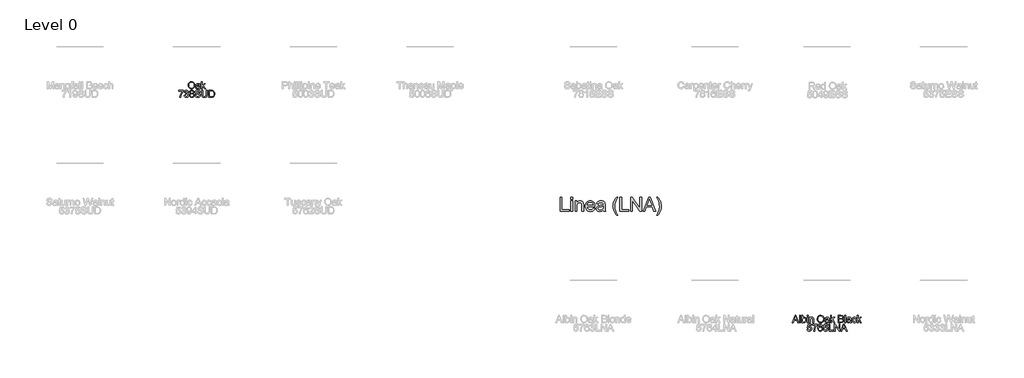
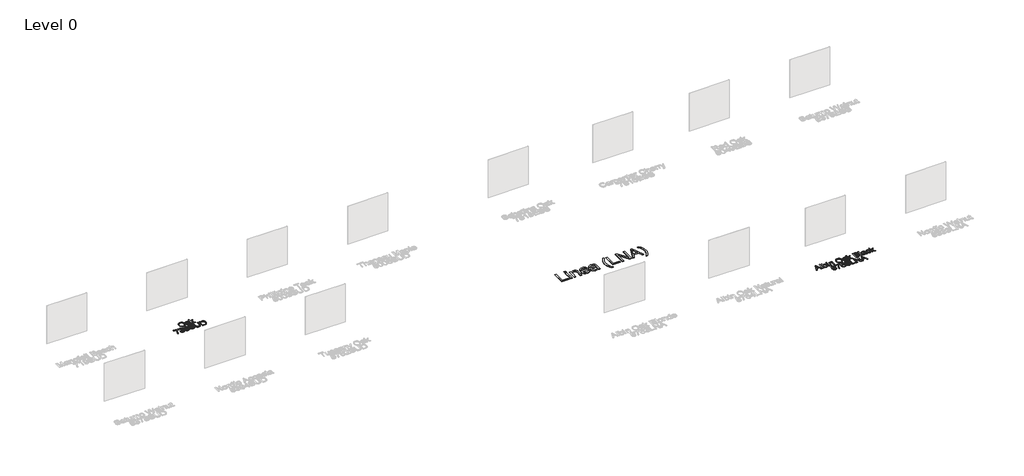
# One storey, part 27 of 43: 3 proxies.
"""IFC4 building model written with IfcOpenShell, lengths in millimetres."""

from ifc_helpers import new_model, si_unit, origin, origin_with_axes, place, context, project, spatial, polyline, outline, extrude, element, save

model = new_model("IFC4")

# Units and contexts
model_context = context("Model", 3, world=origin())
ifc_project = project(units=[si_unit("LENGTHUNIT", "METRE", prefix="MILLI")], contexts=[model_context])

# Site, building, storey
site = spatial("IfcSite", under=ifc_project)
building = spatial("IfcBuilding", under=site)
storey = spatial("IfcBuildingStorey", under=building, Name="Level 0", Elevation=0.0)

# Proxies
placement = place(None, origin())
element("IfcBuildingElementProxy", 1, Name="300mm Arial", ObjectType="300mm Arial", at=placement, inside=storey, context=model_context, shape_type="SweptSolid", body=[
    extrude(outline(polyline([(184.4030045, -11857.1491543), (186.9137991, -11821.8002931), (194.4461829, -11790.5073309), (207.000156, -11763.2702677), (224.5757184, -11740.0891034), (246.1198077, -11721.5800406), (270.5793618, -11708.3592814), (297.9543808, -11700.4268258), (328.2448646, -11697.782674), (367.773785, -11702.7490809), (403.2192152, -11717.6483017), (432.6497748, -11741.4318727), (454.1340833, -11773.0513302), (467.2674706, -11810.9799639), (471.6452663, -11853.6910636), (467.0375443, -11896.9723803), (453.2143784, -11935.4344429), (430.9391235, -11967.1090827), (400.975135, -11990.028131), (365.8332074, -12003.9340704), (328.0241354, -12008.5693835), (287.8882097, -12003.4466267), (252.2404444, -11988.0783564), (222.8834612, -11963.853327), (201.6198819, -11932.1602931), (188.7072238, -11895.6939903), (184.4030045, -11857.1491543)]), holes=[polyline([(222.0741208, -11857.5170363), (223.9572167, -11882.4916252), (229.6065046, -11904.661114), (239.0219844, -11924.0255025), (252.2036562, -11940.5847908), (268.2272163, -11953.8469367), (286.1683614, -11963.3198981), (306.0270913, -11969.0036749), (327.8034062, -11970.8982672), (349.9522016, -11968.9852808), (370.0454563, -11963.2463217), (388.0831704, -11953.6813898), (404.0653438, -11940.2904852), (417.1504465, -11923.381709), (426.4969485, -11903.2631624), (432.1048496, -11879.9348454), (433.97415, -11853.396758), (430.7735766, -11820.0482551), (421.1718566, -11791.2247008), (405.4173101, -11767.6526619), (383.7582577, -11750.0587055), (357.629439, -11739.1050191), (328.4655938, -11735.4537903), (307.4457363, -11737.2127261), (287.943392, -11742.4895335), (269.958561, -11751.2842124), (253.4912432, -11763.5967629), (239.7462521, -11780.0203948), (229.9284014, -11801.1483176), (224.0376909, -11826.9805314), (222.0741208, -11857.5170363)])]), origin_with_axes(), (0.0, 0.0, 1.0), 10.0),
    extrude(outline(polyline([(660.0008478, -11975.6071568), (642.0022212, -11991.0398064), (623.4701657, -12001.1381672), (603.981617, -12006.7115794), (583.1135108, -12008.5693835), (551.6320091, -12004.0996173), (528.4094582, -11990.6903186), (514.0896515, -11970.3280501), (509.3163826, -11944.9993748), (511.1190044, -11929.3827841), (516.5268697, -11915.2009331), (524.868594, -11903.0608273), (535.4727925, -11893.5694718), (561.8499315, -11881.2086368), (594.4442763, -11875.5432541), (632.9615212, -11869.5835657), (659.7801186, -11862.5938078), (660.0008478, -11854.2060983), (657.4072798, -11837.3938912), (649.6265756, -11826.3942195), (632.2257572, -11818.2272392), (607.9823337, -11815.5049125), (585.541532, -11817.3167313), (569.869759, -11822.7521878), (559.1827871, -11832.8045633), (551.6963885, -11848.4671392), (514.0252722, -11843.7582497), (520.5643746, -11823.156858), (530.3224445, -11806.9700502), (544.2099899, -11794.590821), (563.1375185, -11785.4121652), (586.2864931, -11779.7283884), (612.8383761, -11777.8337961), (638.3050072, -11779.5076592), (658.4925317, -11784.5292485), (673.7136492, -11792.0800264), (684.2810595, -11801.3414556), (691.2892115, -11812.7917827), (695.8325542, -11826.9092543), (697.6719641, -11859.8714811), (697.6719641, -11906.7396473), (699.5849505, -11972.1858542), (707.0897432, -12003.860494), (669.4186269, -12003.860494), (660.0008478, -11975.6071568)]), holes=[polyline([(660.0008478, -11900.2649241), (599.2267422, -11911.8164188), (566.8163385, -11917.9232599), (552.1378469, -11927.8560738), (546.9874989, -11942.3506244), (549.7925991, -11953.5526311), (558.2078998, -11962.7312869), (572.0494598, -11968.8565221), (591.1333383, -11970.8982672), (611.3668481, -11968.64499), (629.245913, -11961.8851583), (643.7404637, -11951.9247533), (653.8204303, -11940.069756), (658.2901966, -11927.8560738), (659.7801186, -11910.933502), (660.0008478, -11900.2649241)])]), origin_with_axes(), (0.0, 0.0, 1.0), 10.0),
    extrude(outline(polyline([(749.4697491, -12003.860494), (749.4697491, -11702.4915635), (787.1408654, -11702.4915635), (787.1408654, -11864.4332178), (871.6065715, -11782.5426857), (923.698662, -11782.5426857), (838.2028863, -11865.4632874), (928.4075515, -12003.860494), (884.4088649, -12003.860494), (811.2003479, -11891.6564855), (787.1408654, -11914.9802039), (787.1408654, -12003.860494), (749.4697491, -12003.860494)])), origin_with_axes(), (0.0, 0.0, 1.0), 10.0),
    extrude(outline(polyline([(-218.207051, -12110.7960229), (-218.207051, -12073.1249066), (-20.4336904, -12073.1249066), (-20.4336904, -12103.5855358), (-48.6226483, -12139.2608923), (-76.5356947, -12184.6299393), (-101.1561972, -12235.5540045), (-119.4675235, -12287.8944154), (-128.4438442, -12327.0554538), (-133.4470394, -12369.7849475), (-171.1181557, -12369.7849475), (-167.0438626, -12330.9550029), (-156.1453585, -12284.8042066), (-138.7169489, -12235.8850983), (-115.0529396, -12188.7502177), (-87.4250018, -12146.1402856), (-58.1048067, -12110.7960229), (-218.207051, -12110.7960229)])), origin_with_axes(), (0.0, 0.0, 1.0), 10.0),
    extrude(outline(polyline([(12.5285363, -12289.7338254), (50.1996526, -12285.0249358), (58.6333474, -12308.6981422), (70.9849854, -12324.6826149), (87.8615719, -12333.7876943), (109.8701123, -12336.8227207), (135.6954283, -12332.6472601), (155.6346325, -12320.1208782), (168.3817436, -12301.4324728), (172.6307806, -12278.7709419), (168.4185318, -12257.2590422), (155.7817853, -12239.8122386), (136.6519215, -12228.2515469), (112.960321, -12224.397983), (86.5463938, -12228.5182614), (90.7402485, -12190.8471451), (96.7735132, -12191.2886035), (119.3430736, -12188.5846708), (139.5214011, -12180.4728728), (153.7584343, -12166.7508744), (158.504112, -12147.2163404), (155.0644154, -12130.9467592), (144.7453254, -12117.7489926), (128.999976, -12109.0025982), (109.2815011, -12106.0871334), (89.5262379, -12109.0301893), (73.3762183, -12117.8593572), (61.5856004, -12132.574637), (54.9085422, -12153.1760288), (17.2374259, -12148.4671392), (28.329068, -12114.6403898), (48.0659371, -12089.3852908), (75.0684755, -12073.6583355), (107.9571259, -12068.4160171), (131.6395293, -12071.0003881), (153.3905523, -12078.7535011), (171.7294697, -12090.9855775), (185.1755567, -12107.0068384), (193.4253104, -12125.4653175), (196.1752283, -12145.0090485), (193.5632662, -12163.2192072), (185.7273797, -12179.7371088), (172.7779334, -12193.8085951), (154.8252921, -12204.6795081), (178.406528, -12214.2076518), (195.8809227, -12230.4312477), (206.6966534, -12252.4673793), (210.3018969, -12279.4331295), (208.4992752, -12298.5445992), (203.0914098, -12316.1477526), (194.078301, -12332.2425899), (181.4599485, -12346.829111), (166.0870796, -12358.9324287), (148.8104214, -12367.5776555), (129.6299739, -12372.7647917), (108.5457371, -12374.4938371), (89.4894497, -12373.0177105), (72.1254195, -12368.589331), (56.4536466, -12361.2086985), (42.4741307, -12350.875813), (30.7524907, -12338.1976797), (21.8543449, -12323.781304), (15.7796935, -12307.6266859), (12.5285363, -12289.7338254)])), origin_with_axes(), (0.0, 0.0, 1.0), 10.0),
    extrude(outline(polyline([(298.1521174, -12203.7965913), (277.982987, -12193.8637774), (263.8287272, -12180.3992964), (255.4686089, -12163.6790597), (252.6819028, -12143.9789789), (254.199416, -12128.6153071), (258.7519557, -12114.5300252), (266.3395219, -12101.7231332), (276.9621145, -12090.1946312), (290.1092973, -12080.6664875), (305.270634, -12073.8606706), (341.6357692, -12068.4160171), (378.2216336, -12073.9894293), (393.5485173, -12080.9561946), (406.8980352, -12090.709666), (417.7137658, -12102.4634957), (425.4392877, -12115.4313361), (430.0746009, -12129.613187), (431.6197052, -12145.0090485), (428.8697873, -12164.0745329), (420.6200336, -12180.509661), (406.7784735, -12193.8913686), (387.2531366, -12203.7965913), (410.4388994, -12215.7435591), (427.3154859, -12233.3375155), (437.6069847, -12255.732332), (441.0374843, -12282.0818799), (439.3360301, -12300.8714528), (434.2316674, -12318.0975272), (425.7243963, -12333.7601031), (413.8142167, -12347.8591806), (399.126528, -12359.5118428), (382.2867297, -12367.8351729), (363.2948217, -12372.829171), (342.150804, -12374.4938371), (321.0067863, -12372.8222732), (302.0148783, -12367.8075818), (285.17508, -12359.4497627), (270.4873913, -12347.748816), (258.5772118, -12333.5508703), (250.0699406, -12317.702054), (244.9655779, -12300.2023674), (243.2641237, -12281.0518103), (246.8325791, -12253.6813898), (257.5379451, -12231.1670117), (274.8283989, -12214.2812282), (298.1521174, -12203.7965913)]), holes=[polyline([(290.3530191, -12145.0826249), (293.6915482, -12161.52695), (303.7071355, -12174.6603373), (320.1054754, -12183.268776), (342.5922624, -12186.1382555), (364.5548175, -12183.2871701), (380.7048371, -12174.7339137), (390.637651, -12162.0419848), (393.9485889, -12146.774882), (390.5272864, -12130.9283651), (380.2633787, -12117.822569), (363.8926299, -12109.0209923), (342.150804, -12106.0871334), (320.2710223, -12108.9566129), (303.9278647, -12117.5650516), (293.7467305, -12130.1834041), (290.3530191, -12145.0826249)]), polyline([(280.93524, -12279.7274351), (287.2260221, -12308.0911369), (295.9356284, -12320.2588339), (309.4828828, -12329.317928), (325.7064788, -12334.9465226), (342.4451096, -12336.8227207), (368.0864847, -12332.8771864), (387.326713, -12321.0405832), (399.3564543, -12303.1155329), (403.366368, -12280.9046575), (399.2276956, -12258.316703), (386.8116782, -12239.9961796), (367.1299915, -12227.8560738), (341.1943108, -12223.8093718), (315.9116207, -12227.8008915), (296.8645304, -12239.7754504), (284.9175626, -12257.7464859), (280.93524, -12279.7274351)])]), origin_with_axes(), (0.0, 0.0, 1.0), 10.0),
    extrude(outline(polyline([(473.9997111, -12266.1893777), (511.6708274, -12266.1893777), (515.9934408, -12287.0942721), (523.8109332, -12303.8972822), (536.0062214, -12317.2330045), (553.462222, -12327.7360355), (574.7993778, -12334.5510494), (598.638131, -12336.8227207), (619.6257989, -12335.1028724), (638.0015045, -12329.9433274), (652.8915283, -12321.7763471), (663.4221504, -12311.0341929), (669.6853414, -12298.700949), (671.7730717, -12285.7606998), (670.2095732, -12273.1515444), (665.5190778, -12262.2530403), (655.9909341, -12252.9548229), (639.9144909, -12245.1465276), (585.0632854, -12230.7623415), (549.0568351, -12221.2433949), (526.0182252, -12212.1843008), (507.2654405, -12199.510766), (493.9757034, -12184.1516928), (486.0570435, -12166.4381747), (483.4174902, -12146.7013056), (486.6824429, -12124.637583), (496.477301, -12104.0637824), (512.5445471, -12086.6261758), (534.6266639, -12073.9710352), (561.1325616, -12066.2731044), (590.4711508, -12063.7071275), (622.2561551, -12066.3926661), (650.068034, -12074.4492818), (672.9135059, -12087.7114277), (689.7992895, -12106.013557), (700.4862614, -12128.2152354), (704.7352985, -12153.1760288), (667.0641821, -12153.1760288), (660.1480006, -12130.6984389), (645.7270264, -12114.4748429), (623.1942542, -12104.6523936), (591.9426787, -12101.3782438), (559.9553393, -12104.6156054), (538.0111782, -12114.3276901), (525.3192494, -12128.6199056), (521.0886065, -12145.5976597), (524.0868447, -12160.0738162), (533.0815595, -12171.7172813), (554.3451388, -12182.1283418), (594.5914291, -12192.7601314), (636.1253064, -12202.8584922), (661.2516466, -12211.669266), (682.7267581, -12225.3360821), (697.7087523, -12242.2034716), (706.5103291, -12262.0874934), (709.444188, -12284.8042066), (706.0688707, -12308.0267576), (695.9429188, -12329.869751), (679.4801995, -12348.668521), (657.0945801, -12362.7584014), (630.1748151, -12371.5599781), (600.109659, -12374.4938371), (563.2018979, -12371.3300519), (532.8240421, -12361.8386964), (508.6266039, -12345.9829824), (490.2600953, -12323.7261217), (478.4694773, -12296.6132187), (473.9997111, -12266.1893777)])), origin_with_axes(), (0.0, 0.0, 1.0), 10.0),
    extrude(outline(polyline([(963.7242231, -12068.4160171), (1001.3953394, -12068.4160171), (1001.3953394, -12242.277048), (998.8385595, -12282.9923878), (991.1682199, -12314.3451308), (976.8392162, -12338.533372), (954.306444, -12357.7552063), (923.514721, -12370.3091794), (884.4088649, -12374.4938371), (846.1583345, -12370.8518053), (815.5781436, -12359.92571), (792.6590953, -12342.0926303), (777.3919925, -12317.7296452), (768.811145, -12285.052527), (765.9508625, -12242.277048), (765.9508625, -12068.4160171), (803.6219788, -12068.4160171), (803.6219788, -12240.9526728), (805.4797828, -12274.8070134), (811.0531951, -12298.3790523), (821.1515558, -12314.7038158), (836.5842055, -12326.8163305), (856.7073507, -12334.3211232), (880.8771977, -12336.8227207), (919.1921075, -12331.8747079), (933.5349068, -12325.6896919), (944.6679357, -12317.0306694), (953.0050614, -12304.8537754), (958.9601512, -12288.1151446), (963.7242231, -12240.9526728), (963.7242231, -12068.4160171)])), origin_with_axes(), (0.0, 0.0, 1.0), 10.0),
    extrude(outline(polyline([(1067.3197929, -12369.7849475), (1067.3197929, -12068.4160171), (1171.2832447, -12068.4160171), (1225.0675924, -12072.7570246), (1249.0902867, -12081.12634), (1269.3605847, -12094.3149095), (1290.2010997, -12117.270746), (1305.0451382, -12145.8183889), (1313.9294884, -12179.406015), (1316.8909384, -12217.4818015), (1314.8859816, -12249.8278259), (1308.8711109, -12278.2926953), (1299.7108493, -12302.5269217), (1288.2697192, -12322.1810173), (1275.0995438, -12337.6964405), (1260.752146, -12349.5146496), (1244.2802296, -12358.2794381), (1224.7364986, -12364.6345996), (1176.2864399, -12369.7849475), (1067.3197929, -12369.7849475)]), holes=[polyline([(1104.9909092, -12332.1138312), (1171.6511267, -12332.1138312), (1199.2238823, -12330.7526678), (1220.1379737, -12326.6691777), (1235.9201113, -12320.1024841), (1248.0970053, -12311.2917103), (1261.1844073, -12294.9853408), (1271.0160536, -12273.8781114), (1277.16888, -12247.8780514), (1279.2198221, -12216.8931903), (1275.2007113, -12175.8375597), (1263.1433789, -12145.5240833), (1245.3286933, -12124.7019623), (1224.0375228, -12112.1203981), (1202.3692733, -12107.5954496), (1170.6210571, -12106.0871334), (1104.9909092, -12106.0871334), (1104.9909092, -12332.1138312)])]), origin_with_axes(), (0.0, 0.0, 1.0), 10.0),
])
element("IfcBuildingElementProxy", 2, Name="300mm Arial", ObjectType="300mm Arial", at=placement, inside=storey, context=model_context, shape_type="SweptSolid", body=[
    extrude(outline(polyline([(26068.6169131, -22016.4454346), (26188.9143255, -21715.0765041), (26220.9936355, -21715.0765041), (26341.2910479, -22016.4454346), (26301.4862161, -22016.4454346), (26266.9788849, -21922.2676438), (26142.8554997, -21922.2676438), (26108.421745, -22016.4454346), (26068.6169131, -22016.4454346)]), holes=[polyline([(26156.6878628, -21884.5965275), (26253.2200983, -21884.5965275), (26226.070407, -21810.5050937), (26204.9539805, -21752.7476204), (26186.1919988, -21804.0303705), (26156.6878628, -21884.5965275)])]), origin_with_axes(), (0.0, 0.0, 1.0), 10.0),
    extrude(outline(polyline([(26376.8284487, -22016.4454346), (26376.8284487, -21715.0765041), (26414.499565, -21715.0765041), (26414.499565, -22016.4454346), (26376.8284487, -22016.4454346)])), origin_with_axes(), (0.0, 0.0, 1.0), 10.0),
    extrude(outline(polyline([(26508.6773557, -22016.4454346), (26471.0062394, -22016.4454346), (26471.0062394, -21715.0765041), (26508.6773557, -21715.0765041), (26508.6773557, -21826.8390542), (26521.0657819, -21810.9051653), (26535.0544948, -21799.5238161), (26550.6434943, -21792.6950066), (26567.8327806, -21790.4187367), (26587.2385558, -21792.4696788), (26605.5774733, -21798.6225052), (26621.8010693, -21808.4909397), (26634.8608801, -21821.6887063), (26645.0971966, -21838.0870462), (26652.8503096, -21857.5572008), (26657.7339431, -21879.2898297), (26659.361821, -21902.4755924), (26657.6764616, -21929.2298105), (26652.6203834, -21952.7650612), (26644.1935864, -21973.0813444), (26632.3960707, -21990.1786601), (26618.2349132, -22003.7305131), (26602.7171908, -22013.4104081), (26585.8429035, -22019.2183451), (26567.6120514, -22021.1543241), (26549.8571466, -22018.657325), (26534.1163957, -22011.1663279), (26520.3897988, -21998.6813327), (26508.6773557, -21981.2023394), (26508.6773557, -22016.4454346)]), holes=[polyline([(26508.6773557, -21904.241426), (26511.2525297, -21935.6585484), (26518.9780516, -21956.9221277), (26528.1061236, -21968.5426003), (26538.7149206, -21976.8429378), (26550.8044427, -21981.8231403), (26564.3746898, -21983.4832078), (26586.1165157, -21978.5903772), (26604.6945565, -21963.9118856), (26617.4416676, -21939.5397035), (26621.6907047, -21905.5658012), (26617.6164116, -21871.0952583), (26605.3935323, -21846.9989876), (26587.3949057, -21832.8171367), (26565.9933706, -21828.089853), (26544.2515447, -21832.9826836), (26525.6735039, -21847.6611752), (26512.9263928, -21871.591899), (26508.6773557, -21904.241426)])]), origin_with_axes(), (0.0, 0.0, 1.0), 10.0),
    extrude(outline(polyline([(26701.7418268, -21752.7476204), (26701.7418268, -21715.0765041), (26739.4129431, -21715.0765041), (26739.4129431, -21752.7476204), (26701.7418268, -21752.7476204)])), origin_with_axes(), (0.0, 0.0, 1.0), 10.0),
    extrude(outline(polyline([(26701.7418268, -22016.4454346), (26701.7418268, -21795.1276263), (26739.4129431, -21795.1276263), (26739.4129431, -22016.4454346), (26701.7418268, -22016.4454346)])), origin_with_axes(), (0.0, 0.0, 1.0), 10.0),
    extrude(outline(polyline([(26795.9196176, -22016.4454346), (26795.9196176, -21795.1276263), (26833.5907339, -21795.1276263), (26833.5907339, -21826.0297138), (26846.6781359, -21810.4499114), (26862.3958941, -21799.321481), (26880.7440086, -21792.6444228), (26901.7224794, -21790.4187367), (26920.2913231, -21792.2121614), (26937.2966683, -21797.5924356), (26951.4785192, -21805.8881746), (26961.57688, -21816.4279938), (26972.8708573, -21844.129508), (26974.85742, -21880.5498255), (26974.85742, -22016.4454346), (26937.1863037, -22016.4454346), (26937.1863037, -21885.6265971), (26932.8452962, -21852.2964883), (26926.8396226, -21842.3728715), (26917.504617, -21834.6749407), (26905.5392551, -21829.7361249), (26891.6425127, -21828.089853), (26869.5787901, -21831.7870671), (26850.7708231, -21842.8787092), (26843.254534, -21851.9332048), (26837.8857562, -21864.3078354), (26833.5907339, -21899.0175017), (26833.5907339, -22016.4454346), (26795.9196176, -22016.4454346)])), origin_with_axes(), (0.0, 0.0, 1.0), 10.0),
    extrude(outline(polyline([(27134.9596643, -21869.7340949), (27137.4704589, -21834.3852337), (27145.0028428, -21803.0922714), (27157.5568159, -21775.8552082), (27175.1323782, -21752.674044), (27196.6764675, -21734.1649811), (27221.1360217, -21720.9442219), (27248.5110407, -21713.0117664), (27278.8015244, -21710.3676146), (27318.3304448, -21715.3340215), (27353.7758751, -21730.2332423), (27383.2064347, -21754.0168133), (27404.6907432, -21785.6362708), (27417.8241304, -21823.5649045), (27422.2019262, -21866.2760041), (27417.5942042, -21909.5573209), (27403.7710382, -21948.0193834), (27381.4957834, -21979.6940232), (27351.5317949, -22002.6130715), (27316.3898673, -22016.519011), (27278.5807952, -22021.1543241), (27238.4448696, -22016.0315673), (27202.7971042, -22000.663297), (27173.440121, -21976.4382676), (27152.1765417, -21944.7452337), (27139.2638837, -21908.2789309), (27134.9596643, -21869.7340949)]), holes=[polyline([(27172.6307806, -21870.1019769), (27174.5138766, -21895.0765658), (27180.1631645, -21917.2460546), (27189.5786443, -21936.6104431), (27202.760316, -21953.1697314), (27218.7838762, -21966.4318773), (27236.7250212, -21975.9048387), (27256.5837512, -21981.5886155), (27278.360066, -21983.4832078), (27300.5088614, -21981.5702214), (27320.6021161, -21975.8312623), (27338.6398302, -21966.2663304), (27354.6220036, -21952.8754258), (27367.7071064, -21935.9666496), (27377.0536083, -21915.848103), (27382.6615095, -21892.519786), (27384.5308099, -21865.9816985), (27381.3302365, -21832.6331957), (27371.7285164, -21803.8096413), (27355.97397, -21780.2376025), (27334.3149175, -21762.6436461), (27308.1860988, -21751.6899597), (27279.0222536, -21748.0387309), (27258.0023961, -21749.7976667), (27238.5000519, -21755.074474), (27220.5152208, -21763.869153), (27204.047903, -21776.1817035), (27190.302912, -21792.6053353), (27180.4850612, -21813.7332582), (27174.5943508, -21839.565472), (27172.6307806, -21870.1019769)])]), origin_with_axes(), (0.0, 0.0, 1.0), 10.0),
    extrude(outline(polyline([(27610.5575077, -21988.1920973), (27592.5588811, -22003.624747), (27574.0268256, -22013.7231078), (27554.5382769, -22019.29652), (27533.6701707, -22021.1543241), (27502.188669, -22016.6845578), (27478.966118, -22003.2752591), (27464.6463114, -21982.9129907), (27459.8730425, -21957.5843153), (27461.6756642, -21941.9677246), (27467.0835296, -21927.7858737), (27475.4252538, -21915.6457679), (27486.0294523, -21906.1544124), (27512.4065914, -21893.7935774), (27545.0009361, -21888.1281946), (27583.518181, -21882.1685063), (27610.3367785, -21875.1787484), (27610.5575077, -21866.7910389), (27607.9639396, -21849.9788317), (27600.1832354, -21838.9791601), (27582.7824171, -21830.8121798), (27558.5389936, -21828.089853), (27536.0981919, -21829.9016718), (27520.4264189, -21835.3371283), (27509.7394469, -21845.3895038), (27502.2530483, -21861.0520798), (27464.581932, -21856.3431903), (27471.1210345, -21835.7417985), (27480.8791044, -21819.5549907), (27494.7666497, -21807.1757616), (27513.6941784, -21797.9971058), (27536.8431529, -21792.313329), (27563.3950359, -21790.4187367), (27588.861667, -21792.0925998), (27609.0491915, -21797.114189), (27624.2703091, -21804.664967), (27634.8377194, -21813.9263962), (27641.8458714, -21825.3767233), (27646.389214, -21839.4941949), (27648.228624, -21872.4564216), (27648.228624, -21919.3245878), (27650.1416104, -21984.7707948), (27657.6464031, -22016.4454346), (27619.9752868, -22016.4454346), (27610.5575077, -21988.1920973)]), holes=[polyline([(27610.5575077, -21912.8498647), (27549.7834021, -21924.4013594), (27517.3729983, -21930.5082005), (27502.6945067, -21940.4410143), (27497.5441588, -21954.935565), (27500.349259, -21966.1375717), (27508.7645596, -21975.3162275), (27522.6061197, -21981.4414627), (27541.6899982, -21983.4832078), (27561.9235079, -21981.2299306), (27579.8025729, -21974.4700989), (27594.2971235, -21964.5096939), (27604.3770902, -21952.6546966), (27608.8468564, -21940.4410143), (27610.3367785, -21923.5184426), (27610.5575077, -21912.8498647)])]), origin_with_axes(), (0.0, 0.0, 1.0), 10.0),
    extrude(outline(polyline([(27700.0264089, -22016.4454346), (27700.0264089, -21715.0765041), (27737.6975252, -21715.0765041), (27737.6975252, -21877.0181584), (27822.1632313, -21795.1276263), (27874.2553218, -21795.1276263), (27788.7595462, -21878.048228), (27878.9642114, -22016.4454346), (27834.9655247, -22016.4454346), (27761.7570077, -21904.241426), (27737.6975252, -21927.5651445), (27737.6975252, -22016.4454346), (27700.0264089, -22016.4454346)])), origin_with_axes(), (0.0, 0.0, 1.0), 10.0),
    extrude(outline(polyline([(28034.3575661, -22016.4454346), (28034.3575661, -21715.0765041), (28149.3574778, -21715.0765041), (28180.9861324, -21717.2929931), (28205.6802113, -21723.9424602), (28224.6077399, -21735.1904522), (28238.9367437, -21751.202516), (28247.9590496, -21770.0380742), (28250.9664849, -21789.7565491), (28248.4372962, -21807.9023285), (28240.84973, -21824.9628561), (28228.1486041, -21839.889668), (28210.2787362, -21851.6343007), (28231.625089, -21862.7811252), (28247.3980295, -21879.7404851), (28257.1377054, -21901.3903406), (28260.384264, -21926.6086513), (28258.1677749, -21947.6239103), (28251.5183079, -21967.112459), (28241.5946911, -21983.6855429), (28229.5557528, -21995.9544074), (28214.8128818, -22004.8387576), (28196.777467, -22011.2582984), (28148.474561, -22016.4454346), (28034.3575661, -22016.4454346)]), holes=[polyline([(28072.0286824, -21837.5076321), (28140.8226155, -21837.5076321), (28180.9953294, -21834.2702705), (28195.0576187, -21828.6876613), (28205.1651765, -21820.3275429), (28211.2628206, -21809.3186742), (28213.2953686, -21795.7898138), (28211.4007763, -21782.6564266), (28205.7169995, -21771.2152966), (28196.5015555, -21762.2849611), (28184.0119618, -21756.6839578), (28135.5986912, -21752.7476204), (28072.0286824, -21752.7476204), (28072.0286824, -21837.5076321)]), polyline([(28072.0286824, -21978.7743182), (28149.2839014, -21978.7743182), (28177.2429331, -21977.3027903), (28200.8977454, -21969.0990218), (28216.5695183, -21952.360391), (28221.1772403, -21940.5329848), (28222.7131477, -21926.9765333), (28220.9105259, -21911.2311839), (28215.5026606, -21897.6931265), (28206.0572903, -21887.1073221), (28192.1421539, -21880.2187317), (28172.432876, -21876.4387442), (28145.6050815, -21875.1787484), (28072.0286824, -21875.1787484), (28072.0286824, -21978.7743182)])]), origin_with_axes(), (0.0, 0.0, 1.0), 10.0),
    extrude(outline(polyline([(28307.4731594, -22016.4454346), (28307.4731594, -21715.0765041), (28345.1442757, -21715.0765041), (28345.1442757, -22016.4454346), (28307.4731594, -22016.4454346)])), origin_with_axes(), (0.0, 0.0, 1.0), 10.0),
    extrude(outline(polyline([(28542.9176363, -21988.1920973), (28524.9190097, -22003.624747), (28506.3869541, -22013.7231078), (28486.8984055, -22019.29652), (28466.0302993, -22021.1543241), (28434.5487975, -22016.6845578), (28411.3262466, -22003.2752591), (28397.0064399, -21982.9129907), (28392.233171, -21957.5843153), (28394.0357928, -21941.9677246), (28399.4436581, -21927.7858737), (28407.7853824, -21915.6457679), (28418.3895809, -21906.1544124), (28444.76672, -21893.7935774), (28477.3610647, -21888.1281946), (28515.8783096, -21882.1685063), (28542.6969071, -21875.1787484), (28542.9176363, -21866.7910389), (28540.3240682, -21849.9788317), (28532.543364, -21838.9791601), (28515.1425456, -21830.8121798), (28490.8991221, -21828.089853), (28468.4583204, -21829.9016718), (28452.7865474, -21835.3371283), (28442.0995755, -21845.3895038), (28434.6131769, -21861.0520798), (28396.9420606, -21856.3431903), (28403.481163, -21835.7417985), (28413.239233, -21819.5549907), (28427.1267783, -21807.1757616), (28446.0543069, -21797.9971058), (28469.2032815, -21792.313329), (28495.7551645, -21790.4187367), (28521.2217956, -21792.0925998), (28541.4093201, -21797.114189), (28556.6304376, -21804.664967), (28567.1978479, -21813.9263962), (28574.206, -21825.3767233), (28578.7493426, -21839.4941949), (28580.5887526, -21872.4564216), (28580.5887526, -21919.3245878), (28582.5017389, -21984.7707948), (28590.0065316, -22016.4454346), (28552.3354153, -22016.4454346), (28542.9176363, -21988.1920973)]), holes=[polyline([(28542.9176363, -21912.8498647), (28482.1435307, -21924.4013594), (28449.7331269, -21930.5082005), (28435.0546353, -21940.4410143), (28429.9042873, -21954.935565), (28432.7093876, -21966.1375717), (28441.1246882, -21975.3162275), (28454.9662483, -21981.4414627), (28474.0501268, -21983.4832078), (28494.2836365, -21981.2299306), (28512.1627015, -21974.4700989), (28526.6572521, -21964.5096939), (28536.7372187, -21952.6546966), (28541.206985, -21940.4410143), (28542.6969071, -21923.5184426), (28542.9176363, -21912.8498647)])]), origin_with_axes(), (0.0, 0.0, 1.0), 10.0),
    extrude(outline(polyline([(28773.6532236, -21936.3943124), (28811.3243399, -21941.1032019), (28800.821309, -21974.6080546), (28781.0844399, -21999.927533), (28753.9715369, -22015.8476263), (28721.3404039, -22021.1543241), (28700.2124811, -22019.3034178), (28681.2688576, -22013.7506989), (28664.5095335, -22004.4961675), (28649.9345087, -21991.5398235), (28638.1369929, -21975.1253887), (28629.710196, -21955.496585), (28624.6541178, -21932.6534124), (28622.9687584, -21906.5958708), (28625.847435, -21873.072624), (28634.4834649, -21844.0191434), (28649.0148037, -21820.5574692), (28669.5794072, -21803.8096413), (28694.1815156, -21793.7664629), (28720.8253691, -21790.4187367), (28752.6563588, -21795.0172617), (28778.1045958, -21808.8128365), (28796.3607398, -21831.0696972), (28806.6154504, -21861.0520798), (28768.9443341, -21865.7609693), (28762.110926, -21849.3258412), (28751.4699393, -21837.5444203), (28737.6099852, -21830.4534948), (28721.1196747, -21828.089853), (28696.7750837, -21832.7435603), (28677.4520819, -21846.704682), (28664.8429265, -21870.7273763), (28660.6398747, -21905.5658012), (28664.750956, -21940.8732757), (28677.0841999, -21964.9787434), (28696.0577138, -21978.8570917), (28720.0896051, -21983.4832078), (28739.5965479, -21980.5953341), (28755.5902177, -21971.9317131), (28767.2244858, -21957.2716156), (28773.6532236, -21936.3943124)])), origin_with_axes(), (0.0, 0.0, 1.0), 10.0),
    extrude(outline(polyline([(28844.2865667, -22016.4454346), (28844.2865667, -21715.0765041), (28881.957683, -21715.0765041), (28881.957683, -21877.0181584), (28966.4233891, -21795.1276263), (29018.5154796, -21795.1276263), (28933.019704, -21878.048228), (29023.2243692, -22016.4454346), (28979.2256825, -22016.4454346), (28906.0171655, -21904.241426), (28881.957683, -21927.5651445), (28881.957683, -22016.4454346), (28844.2865667, -22016.4454346)])), origin_with_axes(), (0.0, 0.0, 1.0), 10.0),
    extrude(outline(polyline([(26701.7418268, -22302.3187659), (26739.4129431, -22297.6098764), (26746.3291246, -22320.2254221), (26758.3956541, -22336.4214269), (26775.5573491, -22346.1611027), (26797.7590275, -22349.4076613), (26824.761566, -22344.8919098), (26844.9950757, -22331.3446554), (26857.6318223, -22310.3293964), (26861.8440711, -22283.4096314), (26857.8985367, -22258.0625619), (26846.0619335, -22238.6751808), (26826.242291, -22226.369528), (26798.3476387, -22222.2676438), (26780.0731006, -22223.9047187), (26765.2750474, -22228.8159433), (26744.1218326, -22245.8120915), (26706.4507163, -22241.1032019), (26739.4129431, -22085.7098472), (26885.3885188, -22085.7098472), (26885.3885188, -22123.3809635), (26769.8735723, -22123.3809635), (26753.7603409, -22206.3751416), (26780.6709089, -22190.041181), (26808.8690638, -22184.5965275), (26827.214879, -22186.2841861), (26844.0661737, -22191.3471621), (26859.4229477, -22199.7854554), (26873.2852012, -22211.5990659), (26884.7608201, -22226.0660254), (26892.9576908, -22242.4643653), (26897.8758133, -22260.7940857), (26899.5151874, -22281.0551866), (26893.6106814, -22318.7263029), (26886.2300489, -22335.520116), (26875.8971633, -22350.9527657), (26860.2437844, -22366.7578959), (26841.9784434, -22378.0472746), (26821.1011401, -22384.8209019), (26797.6118747, -22387.0787776), (26760.6121431, -22381.2754392), (26744.9334723, -22374.0212661), (26731.1355982, -22363.8654237), (26719.6553807, -22351.3137499), (26710.9296796, -22336.8720823), (26701.7418268, -22302.3187659)])), origin_with_axes(), (0.0, 0.0, 1.0), 10.0),
    extrude(outline(polyline([(26932.4774142, -22123.3809635), (26932.4774142, -22085.7098472), (27130.2507748, -22085.7098472), (27130.2507748, -22116.1704764), (27102.0618169, -22151.8458329), (27074.1487705, -22197.2148799), (27049.528268, -22248.1389451), (27031.2169417, -22300.479356), (27022.240621, -22339.6403943), (27017.2374259, -22382.3698881), (26979.5663096, -22382.3698881), (26983.6406027, -22343.5399435), (26994.5391068, -22297.3891472), (27011.9675163, -22248.4700389), (27035.6315256, -22201.3351583), (27063.2594635, -22158.7252262), (27092.5796585, -22123.3809635), (26932.4774142, -22123.3809635)])), origin_with_axes(), (0.0, 0.0, 1.0), 10.0),
    extrude(outline(polyline([(27356.2774726, -22161.0520798), (27318.6063563, -22165.7609693), (27312.5363034, -22147.0909581), (27304.3325349, -22134.3438469), (27287.2444162, -22122.5900172), (27266.5878422, -22118.6720739), (27249.0766592, -22120.9529423), (27232.5955458, -22127.7955474), (27218.4412861, -22142.2073246), (27206.8805944, -22162.0453612), (27199.072299, -22190.1055604), (27196.1752283, -22229.1838253), (27211.2859813, -22211.5530807), (27229.3949725, -22199.1278663), (27249.4905265, -22191.7610293), (27270.5609677, -22189.305417), (27288.6607619, -22190.9838786), (27305.3626045, -22196.0192634), (27320.6664955, -22204.4115714), (27334.5724349, -22216.1608027), (27346.1285281, -22230.5679813), (27354.3828803, -22246.9341316), (27359.3354917, -22265.2592534), (27360.9863622, -22285.543347), (27357.8777593, -22312.5182943), (27348.5519507, -22337.5250729), (27333.7814886, -22358.7334699), (27314.3389252, -22374.3132724), (27291.1071772, -22383.8874013), (27264.9691614, -22387.0787776), (27242.5122649, -22384.9634562), (27222.2304706, -22378.6174917), (27204.1237787, -22368.0408844), (27188.192189, -22353.2336341), (27175.2036553, -22333.5703414), (27165.9261313, -22308.4256071), (27160.3596168, -22277.799431), (27158.504112, -22241.6918131), (27160.5642512, -22201.2109981), (27166.7446687, -22166.6622802), (27177.0453646, -22138.0456595), (27191.4663388, -22115.361136), (27207.0967251, -22100.328558), (27225.2195118, -22089.5910022), (27245.8346991, -22083.1484688), (27268.942287, -22081.0009576), (27301.9964842, -22086.3168525), (27328.4655938, -22102.264537), (27347.0068463, -22127.5932123), (27356.2774726, -22161.0520798)]), holes=[polyline([(27196.1752283, -22284.9547358), (27198.3549291, -22301.6473813), (27204.8940316, -22317.5858687), (27215.0475747, -22331.2894731), (27228.0705973, -22341.2774692), (27243.7883555, -22347.3751133), (27262.0261055, -22349.4076613), (27286.8857313, -22345.1954125), (27306.4294623, -22332.5586659), (27319.0938, -22312.6930382), (27323.3152459, -22286.7941457), (27319.1489823, -22261.9345199), (27306.6501915, -22242.9794001), (27286.7753667, -22230.97725), (27260.4810011, -22226.9765333), (27235.6581635, -22230.97725), (27214.9004219, -22242.9794001), (27200.8565267, -22261.4746674), (27196.1752283, -22284.9547358)])]), origin_with_axes(), (0.0, 0.0, 1.0), 10.0),
    extrude(outline(polyline([(27393.9485889, -22302.3187659), (27431.6197052, -22297.6098764), (27438.5358867, -22320.2254221), (27450.6024162, -22336.4214269), (27467.7641113, -22346.1611027), (27489.9657897, -22349.4076613), (27516.9683281, -22344.8919098), (27537.2018379, -22331.3446554), (27549.8385844, -22310.3293964), (27554.0508332, -22283.4096314), (27550.1052988, -22258.0625619), (27538.2686956, -22238.6751808), (27518.4490531, -22226.369528), (27490.5544009, -22222.2676438), (27472.2798628, -22223.9047187), (27457.4818095, -22228.8159433), (27436.3285948, -22245.8120915), (27398.6574785, -22241.1032019), (27431.6197052, -22085.7098472), (27577.5952809, -22085.7098472), (27577.5952809, -22123.3809635), (27462.0803344, -22123.3809635), (27445.967103, -22206.3751416), (27472.877671, -22190.041181), (27501.0758259, -22184.5965275), (27519.4216412, -22186.2841861), (27536.2729358, -22191.3471621), (27551.6297099, -22199.7854554), (27565.4919633, -22211.5990659), (27576.9675823, -22226.0660254), (27585.164453, -22242.4643653), (27590.0825754, -22260.7940857), (27591.7219495, -22281.0551866), (27585.8174435, -22318.7263029), (27578.436811, -22335.520116), (27568.1039254, -22350.9527657), (27552.4505466, -22366.7578959), (27534.1852055, -22378.0472746), (27513.3079023, -22384.8209019), (27489.8186369, -22387.0787776), (27452.8189052, -22381.2754392), (27437.1402344, -22374.0212661), (27423.3423603, -22363.8654237), (27411.8621428, -22351.3137499), (27403.1364418, -22336.8720823), (27393.9485889, -22302.3187659)])), origin_with_axes(), (0.0, 0.0, 1.0), 10.0),
    extrude(outline(polyline([(27638.8108449, -22382.3698881), (27638.8108449, -22081.0009576), (27676.4819612, -22081.0009576), (27676.4819612, -22344.6987718), (27827.1664265, -22344.6987718), (27827.1664265, -22382.3698881), (27638.8108449, -22382.3698881)])), origin_with_axes(), (0.0, 0.0, 1.0), 10.0),
    extrude(outline(polyline([(27869.5464323, -22382.3698881), (27869.5464323, -22081.0009576), (27909.866299, -22081.0009576), (28067.3197929, -22319.7563725), (28067.3197929, -22081.0009576), (28104.9909092, -22081.0009576), (28104.9909092, -22382.3698881), (28064.6710425, -22382.3698881), (27907.2175486, -22143.5408968), (27907.2175486, -22382.3698881), (27869.5464323, -22382.3698881)])), origin_with_axes(), (0.0, 0.0, 1.0), 10.0),
    extrude(outline(polyline([(28135.8194204, -22382.3698881), (28256.1168328, -22081.0009576), (28288.1961428, -22081.0009576), (28408.4935552, -22382.3698881), (28368.6887234, -22382.3698881), (28334.1813922, -22288.1920973), (28210.058007, -22288.1920973), (28175.6242523, -22382.3698881), (28135.8194204, -22382.3698881)]), holes=[polyline([(28223.89037, -22250.520981), (28320.4226056, -22250.520981), (28293.2729143, -22176.4295472), (28272.1564878, -22118.6720739), (28253.3945061, -22169.9548241), (28223.89037, -22250.520981)])]), origin_with_axes(), (0.0, 0.0, 1.0), 10.0),
])
element("IfcBuildingElementProxy", 3, Name="600mm Arial", ObjectType="600mm Arial", at=placement, inside=storey, context=model_context, shape_type="SweptSolid", body=[
    extrude(outline(polyline([(16122.5368148, -17252.4569879), (16122.5368148, -16649.719127), (16197.8790474, -16649.719127), (16197.8790474, -17177.1147553), (16499.2479778, -17177.1147553), (16499.2479778, -17252.4569879), (16122.5368148, -17252.4569879)])), origin_with_axes(), (0.0, 0.0, 1.0), 10.0),
    extrude(outline(polyline([(16574.5902104, -17252.4569879), (16574.5902104, -16809.8213713), (16649.932443, -16809.8213713), (16649.932443, -17252.4569879), (16574.5902104, -17252.4569879)])), origin_with_axes(), (0.0, 0.0, 1.0), 10.0),
    extrude(outline(polyline([(16574.5902104, -16725.0613596), (16574.5902104, -16649.719127), (16649.932443, -16649.719127), (16649.932443, -16725.0613596), (16574.5902104, -16725.0613596)])), origin_with_axes(), (0.0, 0.0, 1.0), 10.0),
    extrude(outline(polyline([(16762.945792, -17252.4569879), (16762.945792, -16809.8213713), (16838.2880246, -16809.8213713), (16838.2880246, -16871.6255465), (16864.4628285, -16840.4659415), (16895.898345, -16818.2090808), (16932.594574, -16804.8549644), (16974.5515156, -16800.4035922), (17011.689203, -16803.9904417), (17045.6998935, -16814.75099), (17074.0635953, -16831.342468), (17094.2603168, -16852.4221063), (17107.9639211, -16877.9347227), (17116.8482713, -16907.8251348), (17120.8213969, -16980.6657699), (17120.8213969, -17252.4569879), (17045.4791643, -17252.4569879), (17045.4791643, -16990.8193129), (17043.3086605, -16951.8606096), (17036.7971492, -16924.1590954), (17024.785802, -16904.3118618), (17006.1157908, -16888.9160003), (16982.185067, -16879.0383687), (16954.3915823, -16875.7458248), (16931.5139207, -16877.5944319), (16910.2641369, -16883.1402529), (16890.642231, -16892.3832881), (16872.6482029, -16905.3235372), (16857.6156249, -16923.4325285), (16846.8780692, -16948.1817897), (16840.4355357, -16979.5713209), (16838.2880246, -17017.6011222), (16838.2880246, -17252.4569879), (16762.945792, -17252.4569879)])), origin_with_axes(), (0.0, 0.0, 1.0), 10.0),
    extrude(outline(polyline([(17534.3207594, -17120.6080808), (17608.1914641, -17130.0258599), (17596.8652972, -17159.6127694), (17581.5752017, -17185.6864058), (17562.3211778, -17208.2467691), (17539.1032254, -17227.2938594), (17512.1604678, -17242.4230065), (17481.7320282, -17253.2295401), (17447.8179068, -17259.7134603), (17410.4181035, -17261.874767), (17363.6694989, -17258.1453632), (17322.01606, -17246.9571521), (17285.4577868, -17228.3101334), (17253.9946791, -17202.2043074), (17228.6935949, -17169.3662408), (17210.6213919, -17130.5225006), (17199.7780701, -17085.6730869), (17196.1636295, -17034.8179996), (17199.8148583, -16982.2384654), (17210.7685447, -16935.894531), (17229.0246887, -16895.7861965), (17254.5832903, -16861.9134618), (17285.9636245, -16835.0028939), (17321.6849662, -16815.7810596), (17361.7473155, -16804.2479591), (17406.1506723, -16800.4035922), (17449.1238879, -16804.238762), (17487.9860222, -16815.7442714), (17522.7370751, -16834.9201204), (17553.3770468, -16861.766309), (17578.3884239, -16895.5654673), (17596.2536933, -16935.6002255), (17606.972855, -16981.8705834), (17610.5459089, -17034.3765412), (17610.1044505, -17054.6836273), (17271.5058621, -17054.6836273), (17275.8698623, -17084.7487833), (17284.5472788, -17111.0799372), (17297.5381118, -17133.6770887), (17314.8423611, -17152.540238), (17335.5035337, -17167.4118677), (17358.5651363, -17178.0344603), (17384.0271688, -17184.4080158), (17411.8896315, -17186.5325344), (17451.9887689, -17182.596197), (17485.7603361, -17170.787185), (17513.2043329, -17150.3697342), (17534.3207594, -17120.6080808)]), holes=[polyline([(17271.5058621, -16979.3413947), (17535.2036762, -16979.3413947), (17525.013345, -16939.5365628), (17516.2485564, -16923.8831839), (17505.0373526, -16911.0624964), (17484.4911432, -16895.6114526), (17461.1122424, -16884.5749927), (17434.9006503, -16877.9531168), (17405.8563667, -16875.7458248), (17379.3642646, -16877.5070599), (17355.0702573, -16882.790765), (17332.974345, -16891.5969403), (17313.0765276, -16903.9255857), (17296.3792835, -16919.206484), (17283.8850912, -16936.8694183), (17275.5939508, -16956.9143885), (17271.5058621, -16979.3413947)])]), origin_with_axes(), (0.0, 0.0, 1.0), 10.0),
    extrude(outline(polyline([(17968.4215138, -17195.9503134), (17932.4242605, -17226.8156128), (17895.3601495, -17247.0123344), (17856.3830521, -17258.1591588), (17814.6468398, -17261.874767), (17781.1006003, -17259.6398839), (17751.6838363, -17252.9352345), (17726.3965477, -17241.7608189), (17705.2387344, -17226.116637), (17688.5322933, -17206.9959703), (17676.5991211, -17185.3921002), (17669.4392178, -17161.3050265), (17667.0525833, -17134.7347494), (17670.6578269, -17103.5015681), (17681.4735575, -17075.1378662), (17698.157006, -17050.8576545), (17719.365403, -17031.8749436), (17744.2894082, -17017.5275458), (17772.1196811, -17007.1532735), (17837.3083707, -16995.8225081), (17914.3428605, -16983.9031314), (17967.9800554, -16969.9236156), (17968.4215138, -16953.1481966), (17963.2343776, -16919.5237823), (17956.7504575, -16907.0709767), (17947.6729692, -16897.524439), (17931.9828021, -16887.9962953), (17912.8713325, -16881.1904784), (17864.3844855, -16875.7458248), (17819.5028821, -16879.3694625), (17788.1593361, -16890.2403754), (17766.7853922, -16910.3451265), (17751.812595, -16941.6702784), (17676.4703624, -16932.2524993), (17689.5485673, -16891.0497158), (17709.0647072, -16858.6761003), (17736.8397978, -16833.917642), (17774.6948551, -16815.5603304), (17820.9928042, -16804.1927768), (17874.0965702, -16800.4035922), (17925.0298324, -16803.7513184), (17965.4048814, -16813.7944968), (17995.8471165, -16828.8960528), (18016.9819371, -16847.4189112), (18030.9982411, -16870.3195654), (18040.0849264, -16898.5545085), (18043.7637464, -16964.4789621), (18043.7637464, -17058.2152944), (18047.5897191, -17189.1077083), (18053.2551018, -17221.4629298), (18062.5993045, -17252.4569879), (17987.2570719, -17252.4569879), (17975.1905425, -17226.2637898), (17968.4215138, -17195.9503134)]), holes=[polyline([(17968.4215138, -17045.2658482), (17917.8009512, -17057.8106243), (17846.8733026, -17068.3688375), (17782.052495, -17080.5825198), (17765.1851055, -17088.933441), (17752.6955118, -17100.4481475), (17744.9699899, -17114.2437223), (17742.3948159, -17129.4372487), (17748.0050163, -17151.8412622), (17764.8356176, -17170.1985738), (17792.5187378, -17182.4490442), (17830.6864948, -17186.5325344), (17871.1535142, -17182.0259799), (17906.9116442, -17168.5063166), (17935.9007454, -17148.5855066), (17956.0606787, -17124.875512), (17965.0002112, -17100.4481475), (17967.9800554, -17066.6030039), (17968.4215138, -17045.2658482)])]), origin_with_axes(), (0.0, 0.0, 1.0), 10.0),
    extrude(outline(polyline([(18533.4882583, -17421.9770113), (18503.0736144, -17382.6228348), (18475.1053857, -17340.049691), (18449.5835723, -17294.2575796), (18426.5081742, -17245.2465008), (18407.3875075, -17194.1660858), (18393.7298884, -17142.1659657), (18385.5353169, -17089.2461407), (18382.8037931, -17035.4066107), (18384.8455382, -16988.0877891), (18390.9707734, -16941.780643), (18401.1794988, -16896.4851723), (18415.4717143, -16852.2013771), (18437.1951461, -16801.4152677), (18464.1057141, -16750.7395229), (18496.2034181, -16700.1741426), (18533.4882583, -16649.719127), (18589.9949328, -16649.719127), (18545.6651524, -16721.3457515), (18519.5087425, -16769.0600462), (18495.44926, -16825.7138735), (18477.1287367, -16884.7221455), (18462.8917035, -16960.1011663), (18458.1460257, -17035.8480691), (18460.2061649, -17084.1463766), (18466.3865824, -17132.435487), (18476.6872783, -17180.7154003), (18491.1082525, -17228.9861166), (18509.6495051, -17277.2476358), (18532.311036, -17325.499958), (18559.0928452, -17373.7430832), (18589.9949328, -17421.9770113), (18533.4882583, -17421.9770113)])), origin_with_axes(), (0.0, 0.0, 1.0), 10.0),
    extrude(outline(polyline([(18674.7549445, -17252.4569879), (18674.7549445, -16649.719127), (18750.0971771, -16649.719127), (18750.0971771, -17177.1147553), (19051.4661076, -17177.1147553), (19051.4661076, -17252.4569879), (18674.7549445, -17252.4569879)])), origin_with_axes(), (0.0, 0.0, 1.0), 10.0),
    extrude(outline(polyline([(19136.2261192, -17252.4569879), (19136.2261192, -16649.719127), (19216.8658526, -16649.719127), (19531.7728405, -17127.2299567), (19531.7728405, -16649.719127), (19607.1150731, -16649.719127), (19607.1150731, -17252.4569879), (19526.4753397, -17252.4569879), (19211.5683519, -16774.7990054), (19211.5683519, -17252.4569879), (19136.2261192, -17252.4569879)])), origin_with_axes(), (0.0, 0.0, 1.0), 10.0),
    extrude(outline(polyline([(19668.7720955, -17252.4569879), (19909.3669203, -16649.719127), (19973.5255403, -16649.719127), (20214.1203651, -17252.4569879), (20134.5107014, -17252.4569879), (20065.4960391, -17064.1014064), (19817.2492687, -17064.1014064), (19748.3817592, -17252.4569879), (19668.7720955, -17252.4569879)]), holes=[polyline([(19844.9139948, -16988.7591738), (20037.9784658, -16988.7591738), (19983.6790833, -16840.5763061), (19941.4462303, -16725.0613596), (19903.9222668, -16827.6268599), (19844.9139948, -16988.7591738)])]), origin_with_axes(), (0.0, 0.0, 1.0), 10.0),
    extrude(outline(polyline([(20304.0307247, -17421.9770113), (20247.5240503, -17421.9770113), (20278.4261379, -17373.7430832), (20305.2079471, -17325.499958), (20327.869478, -17277.2476358), (20346.4107306, -17228.9861166), (20360.8317048, -17180.7154003), (20371.1324007, -17132.435487), (20377.3128182, -17084.1463766), (20379.3729573, -17035.8480691), (20374.6272796, -16960.6529893), (20360.3902464, -16886.0465207), (20342.4008168, -16826.9278841), (20318.4516989, -16770.2372686), (20292.1849245, -16722.0079391), (20247.5240503, -16649.719127), (20304.0307247, -16649.719127), (20341.3155649, -16700.1741426), (20373.413269, -16750.7395229), (20400.323837, -16801.4152677), (20422.0472688, -16852.2013771), (20436.3394843, -16896.4851723), (20446.5482097, -16941.780643), (20452.6734449, -16988.0877891), (20454.71519, -17035.4066107), (20451.9698706, -17089.2461407), (20443.7339124, -17142.1659657), (20430.0073155, -17194.1660858), (20410.7900797, -17245.2465008), (20387.6457037, -17294.2575796), (20362.1376859, -17340.049691), (20334.2660262, -17382.6228348), (20304.0307247, -17421.9770113)])), origin_with_axes(), (0.0, 0.0, 1.0), 10.0),
])

save(model, "model.ifc")
